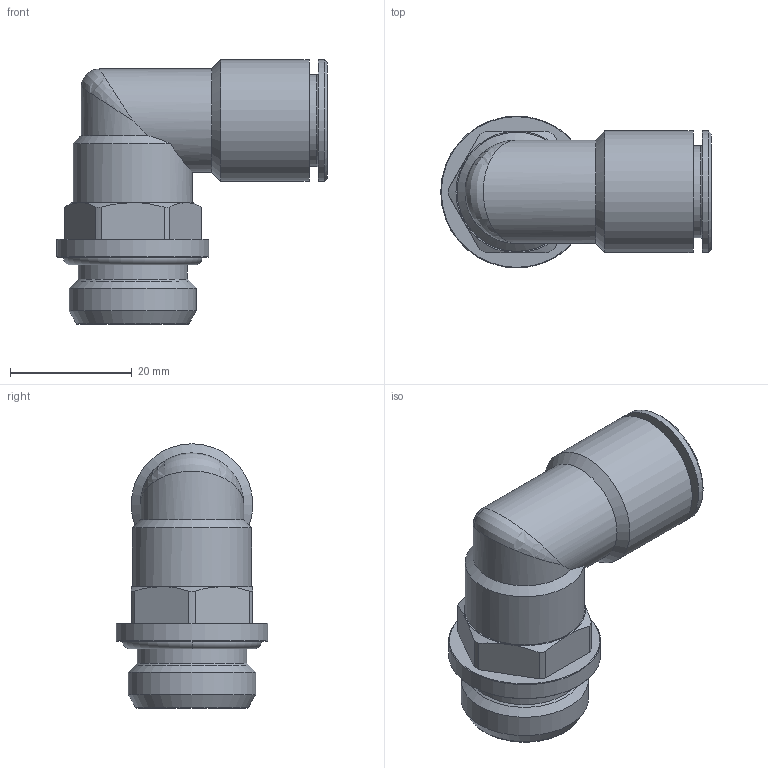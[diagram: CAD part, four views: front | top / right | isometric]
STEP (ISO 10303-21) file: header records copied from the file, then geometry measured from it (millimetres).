
FILE_DESCRIPTION(('Bauteilbeschreibung','HiCAD-Model','HiCAD-STEP-TRANSLATION','Bauteilbeschreibung'),'2;1');
FILE_NAME('B:/ABGLEICH/ZEICHNUNGEN/STEP FÜR INTERNET/STEP/IPSO 022/202214_IPSO_022_14_1-2.STP','2012-02-08T13:53:56+00:00',('Konstrukteur'),('Konstrukteur Firma GmbH'),' HiCAD neXt 2008, Step 3.1.1401.2J ','HiCAD neXt 2008','confidential');
FILE_SCHEMA(('AUTOMOTIVE_DESIGN { 1 2 10303 214 0 1 1 1 }'));
Length unit declared in the file: millimetre
Products named in the file (7): A02214_IPSO_022_14_1_2; OR 17_12X2_62; DR14_5; R202213; A14608_GEW__12_1_2; A146080GEW00120102; G 1_2
Assembly tree (6 placements, depth 3):
  A02214_IPSO_022_14_1_2
    OR 17_12X2_62
    DR14_5
    R202213
    A14608_GEW__12_1_2
    A146080GEW00120102
      G 1_2
Bounding box: 44.5 x 25 x 43.5 mm (x, y, z)
Volume: 9383.5 mm3; surface area: 11540.2 mm2
Topology: 5 solids, 5 shells, 94 faces, 207 edges, 124 vertices
Faces by surface type: cylinder 32, cone 29, plane 21, torus 10, sphere 1, bspline 1
Full cylindrical faces by diameter (mm): 11 x1, 12 x1, 14.15 x1, 14.3 x1, 14.5 x1, 15.1 x1, 15.2 x1, 15.8 x2, 16.2 x1, 16.5 x1, 17 x3, 17.3 x1, 18 x1, 18.1 x1, 18.631 x2, 19.6 x1, 20 x2, 20.955 x1, 25 x1
Entity records: 3905 total; most frequent: CARTESIAN_POINT 1339, DIRECTION 422, ORIENTED_EDGE 274, AXIS2_PLACEMENT_3D 201, EDGE_LOOP 160, EDGE_CURVE 137, COLOUR_RGB 125, PRESENTATION_STYLE_ASSIGNMENT 125
